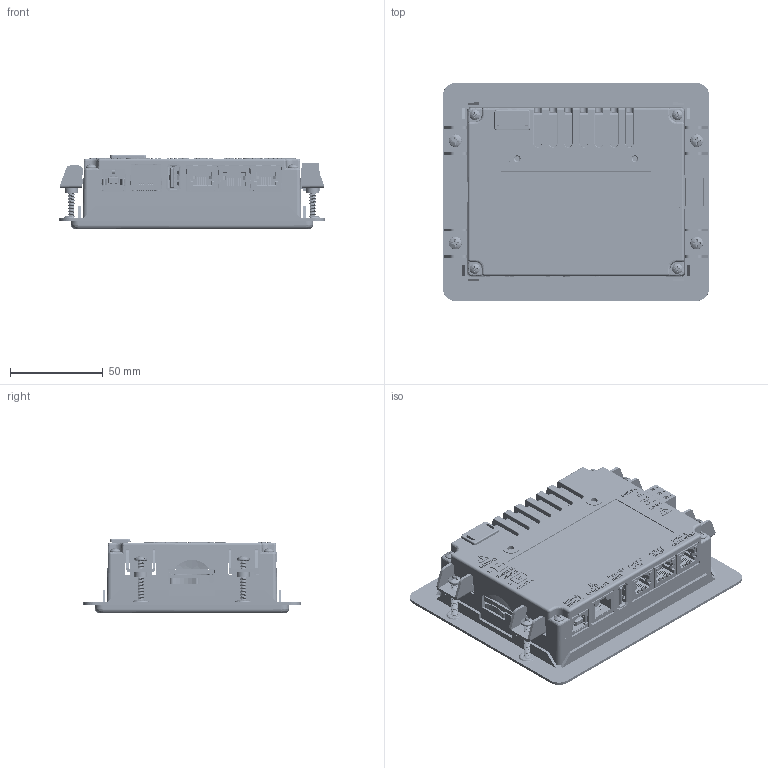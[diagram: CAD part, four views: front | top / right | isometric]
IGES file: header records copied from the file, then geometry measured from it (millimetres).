
Start section: C
Global section: file name: CR300004.igs; native system: By Siemens PLM Incorporated; preprocessor: XPlus GENERIC/IGES 20.0.26; author: Author; organization: Title; date: 20171221.061904; units: millimetre
Bounding box: 143.51 x 117.47 x 40.13 mm (x, y, z)
Surface area: 247933.8 mm2 (no closed solid volume)
Topology: 0 solids, 0 shells, 14275 faces, 92697 edges, 92668 vertices
Faces by surface type: bspline 14275
